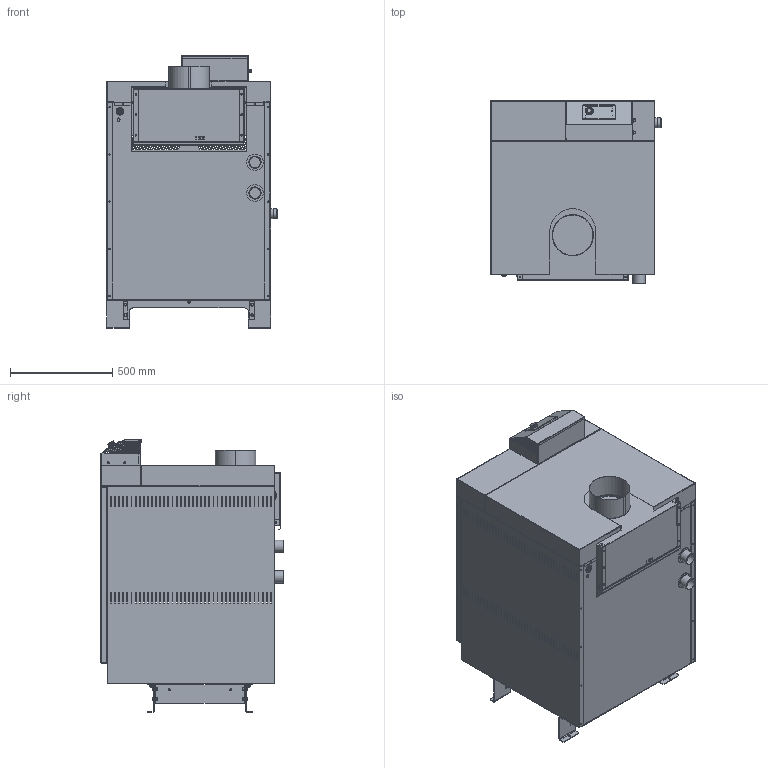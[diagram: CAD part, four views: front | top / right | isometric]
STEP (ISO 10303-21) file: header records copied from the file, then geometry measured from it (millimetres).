
FILE_DESCRIPTION(('STEP AP203'), '1');
FILE_NAME('TITAN V 100', '2025-12-03T09:25:15', (''), (''), 'ASCON STEP Converter 1.6', 'ASCON Math Kernel', '');
FILE_SCHEMA(('CONFIG_CONTROL_DESIGN'));
Length unit declared in the file: millimetre
Bounding box: 831 x 895.63 x 1330.4 mm (x, y, z)
Volume: 9458447.7 mm3; surface area: 11325761.1 mm2
Topology: 20 solids, 21 shells, 4180 faces, 10902 edges, 6997 vertices
Faces by surface type: plane 3053, cylinder 752, bspline 202, torus 84, cone 63, sphere 24, extrusion 2
Full cylindrical faces by diameter (mm): 2.45 x22, 2.5 x6, 3 x16, 3.2 x2, 3.5 x4, 4 x32, 4.2 x8, 4.5 x30, 4.7 x1, 5 x4, 6 x11, 7 x6, 8 x22, 8.5 x14, 9 x14, 10 x14, 10.421 x1, 12 x1, 14 x3, 14.795 x1, 15 x1, 16 x10, 19.169 x1, 23.542 x1, 24.5 x2, 27.916 x1, 30.664 x1, 32 x2, 36 x1, 38 x1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
Entity records: 148439 total; most frequent: CARTESIAN_POINT 46268, ORIENTED_EDGE 21007, DIRECTION 19640, EDGE_CURVE 10505, VECTOR 7770, LINE 7768, VERTEX_POINT 6996, AXIS2_PLACEMENT_3D 5935
